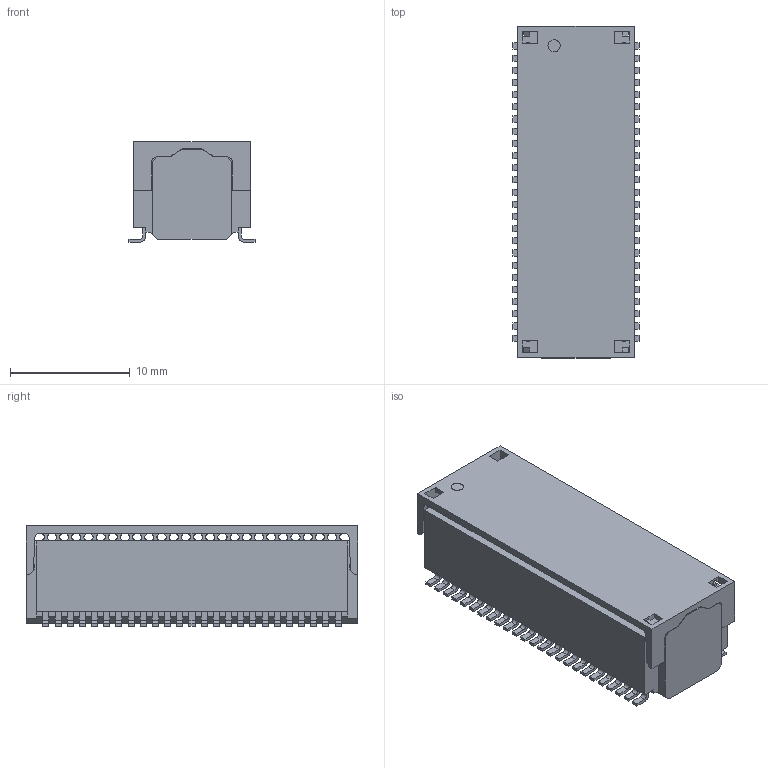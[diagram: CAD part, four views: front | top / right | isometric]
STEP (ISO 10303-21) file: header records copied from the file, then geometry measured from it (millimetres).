
FILE_DESCRIPTION (( 'STEP AP214' ), '1' );
FILE_NAME ('H5020FNL_3D.STEP', '2017-09-18T09:31:51', ( '' ), ( '' ), 'SwSTEP 2.0', 'SolidWorks 2015', '' );
FILE_SCHEMA (( 'AUTOMOTIVE_DESIGN' ));
Length unit declared in the file: millimetre
Products named in the file (1): H5020FNL_3D
Bounding box: 10.52 x 27.69 x 8.38 mm (x, y, z)
Volume: 1895 mm3; surface area: 1913.4 mm2
Topology: 2 solids, 2 shells, 1543 faces, 4224 edges, 2778 vertices
Faces by surface type: plane 1210, cylinder 329, bspline 4
Entity records: 65408 total; most frequent: CARTESIAN_POINT 8652, ORIENTED_EDGE 8448, DIRECTION 7942, EDGE_CURVE 4224, LINE 3558, VECTOR 3558, VERTEX_POINT 2778, AXIS2_PLACEMENT_3D 2192
